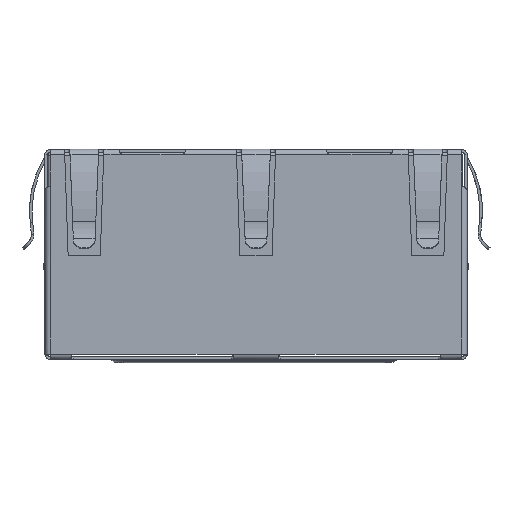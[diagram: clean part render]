
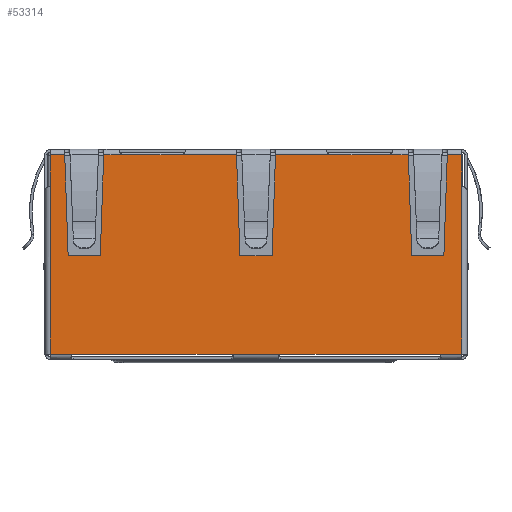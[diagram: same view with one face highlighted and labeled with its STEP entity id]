
A CAD part, front view. The second image highlights one B-rep face of the part: STEP entity #53314.
In plain terms, the highlighted planar face has unit normal (0, -1, 0).
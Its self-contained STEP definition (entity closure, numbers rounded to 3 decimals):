
#43404=CARTESIAN_POINT('',(-14.536,-6.6,
7.5));
#43406=DIRECTION('',(-1.,0.,0.));
#43407=VECTOR('',#43406,1.114);
#43408=CARTESIAN_POINT('',(-14.536,-6.6,
7.5));
#43409=LINE('',#43408,#43407);
#43440=DIRECTION('',(-0.034,0.,-0.999));
#43441=VECTOR('',#43440,7.704);
#43442=CARTESIAN_POINT('',(-11.564,-6.6,
7.5));
#43443=LINE('',#43442,#43441);
#43444=DIRECTION('',(-0.034,0.,0.999));
#43445=VECTOR('',#43444,7.704);
#43446=CARTESIAN_POINT('',(-1.175,-6.6,-0.2));
#43447=LINE('',#43446,#43445);
#43448=DIRECTION('',(-0.034,0.,-0.999));
#43449=VECTOR('',#43448,7.704);
#43450=CARTESIAN_POINT('',(1.536,-6.6,
7.5));
#43451=LINE('',#43450,#43449);
#43452=DIRECTION('',(-0.034,0.,0.999));
#43453=VECTOR('',#43452,7.704);
#43454=CARTESIAN_POINT('',(11.925,-6.6,-0.2));
#43455=LINE('',#43454,#43453);
#43456=DIRECTION('',(-0.034,0.,-0.999));
#43457=VECTOR('',#43456,7.704);
#43458=CARTESIAN_POINT('',(14.636,-6.6,
7.5));
#43459=LINE('',#43458,#43457);
#43460=DIRECTION('',(0.,0.,-1.));
#43461=VECTOR('',#43460,2.4);
#43462=CARTESIAN_POINT('',(-15.65,-6.6,7.5));
#43463=LINE('',#43462,#43461);
#43464=DIRECTION('',(-0.034,0.,0.999));
#43465=VECTOR('',#43464,7.704);
#43466=CARTESIAN_POINT('',(-14.275,-6.6,-0.2));
#43467=LINE('',#43466,#43465);
#43468=DIRECTION('',(1.,0.,0.));
#43469=VECTOR('',#43468,2.45);
#43470=CARTESIAN_POINT('',(-14.275,-6.6,-0.2));
#43471=LINE('',#43470,#43469);
#43581=DIRECTION('',(0.,0.,-1.));
#43582=VECTOR('',#43581,12.8);
#43583=CARTESIAN_POINT('',(-15.65,-6.6,5.1));
#43584=LINE('',#43583,#43582);
#43702=DIRECTION('',(1.,0.,0.));
#43703=VECTOR('',#43702,1.8);
#43704=CARTESIAN_POINT('',(-15.65,-6.6,-7.7));
#43705=LINE('',#43704,#43703);
#43727=DIRECTION('',(-1.,0.,0.));
#43728=VECTOR('',#43727,12.);
#43729=CARTESIAN_POINT('',(-1.85,-6.6,-7.7));
#43730=LINE('',#43729,#43728);
#43784=DIRECTION('',(1.,0.,0.));
#43785=VECTOR('',#43784,3.8);
#43786=CARTESIAN_POINT('',(-1.85,-6.6,-7.7));
#43787=LINE('',#43786,#43785);
#43809=DIRECTION('',(1.,0.,0.));
#43810=VECTOR('',#43809,12.);
#43811=CARTESIAN_POINT('',(1.95,-6.6,-7.7));
#43812=LINE('',#43811,#43810);
#43852=DIRECTION('',(1.,0.,0.));
#43853=VECTOR('',#43852,1.8);
#43854=CARTESIAN_POINT('',(13.95,-6.6,-7.7));
#43855=LINE('',#43854,#43853);
#43913=DIRECTION('',(0.,0.,1.));
#43914=VECTOR('',#43913,12.8);
#43915=CARTESIAN_POINT('',(15.75,-6.6,-7.7));
#43916=LINE('',#43915,#43914);
#43925=DIRECTION('',(0.,0.,1.));
#43926=VECTOR('',#43925,2.4);
#43927=CARTESIAN_POINT('',(15.75,-6.6,5.1));
#43928=LINE('',#43927,#43926);
#43955=DIRECTION('',(-1.,0.,0.));
#43956=VECTOR('',#43955,1.114);
#43957=CARTESIAN_POINT('',(15.75,-6.6,7.5));
#43958=LINE('',#43957,#43956);
#43972=DIRECTION('',(1.,0.,0.));
#43973=VECTOR('',#43972,2.45);
#43974=CARTESIAN_POINT('',(11.925,-6.6,-0.2));
#43975=LINE('',#43974,#43973);
#44005=DIRECTION('',(-1.,0.,
0.));
#44006=VECTOR('',#44005,1.514);
#44007=CARTESIAN_POINT('',(11.664,-6.6,
7.5));
#44008=LINE('',#44007,#44006);
#44747=DIRECTION('',(1.,0.,0.));
#44748=VECTOR('',#44747,4.4);
#44749=CARTESIAN_POINT('',(5.75,-6.6,
7.5));
#44750=LINE('',#44749,#44748);
#44763=DIRECTION('',(-1.,0.,0.));
#44764=VECTOR('',#44763,4.214);
#44765=CARTESIAN_POINT('',(5.75,-6.6,
7.5));
#44766=LINE('',#44765,#44764);
#44780=DIRECTION('',(1.,0.,0.));
#44781=VECTOR('',#44780,2.45);
#44782=CARTESIAN_POINT('',(-1.175,-6.6,-0.2));
#44783=LINE('',#44782,#44781);
#44813=DIRECTION('',(-1.,0.,
0.));
#44814=VECTOR('',#44813,4.214);
#44815=CARTESIAN_POINT('',(-1.436,-6.6,
7.5));
#44816=LINE('',#44815,#44814);
#45527=DIRECTION('',(-1.,0.,0.));
#45528=VECTOR('',#45527,4.4);
#45529=CARTESIAN_POINT('',(-5.65,-6.6,
7.5));
#45530=LINE('',#45529,#45528);
#45543=DIRECTION('',(-1.,0.,0.));
#45544=VECTOR('',#45543,1.514);
#45545=CARTESIAN_POINT('',(-10.05,-6.6,
7.5));
#45546=LINE('',#45545,#45544);
#50363=VERTEX_POINT('',#43404);
#50364=CARTESIAN_POINT('',(-15.65,-6.6,7.5));
#50365=VERTEX_POINT('',#50364);
#50369=CARTESIAN_POINT('',(-15.65,-6.6,5.1));
#50370=VERTEX_POINT('',#50369);
#50373=CARTESIAN_POINT('',(-14.275,-6.6,-0.2));
#50374=CARTESIAN_POINT('',(-11.825,-6.6,-0.2));
#50375=VERTEX_POINT('',#50373);
#50376=VERTEX_POINT('',#50374);
#50377=CARTESIAN_POINT('',(-11.564,-6.6,
7.5));
#50378=VERTEX_POINT('',#50377);
#50379=CARTESIAN_POINT('',(-10.05,-6.6,
7.5));
#50380=VERTEX_POINT('',#50379);
#50381=CARTESIAN_POINT('',(-5.65,-6.6,
7.5));
#50382=VERTEX_POINT('',#50381);
#50383=CARTESIAN_POINT('',(-1.436,-6.6,
7.5));
#50384=VERTEX_POINT('',#50383);
#50385=CARTESIAN_POINT('',(-1.175,-6.6,-0.2));
#50386=VERTEX_POINT('',#50385);
#50387=CARTESIAN_POINT('',(1.275,-6.6,-0.2));
#50388=VERTEX_POINT('',#50387);
#50389=CARTESIAN_POINT('',(1.536,-6.6,
7.5));
#50390=VERTEX_POINT('',#50389);
#50391=CARTESIAN_POINT('',(5.75,-6.6,
7.5));
#50392=VERTEX_POINT('',#50391);
#50393=CARTESIAN_POINT('',(10.15,-6.6,
7.5));
#50394=VERTEX_POINT('',#50393);
#50395=CARTESIAN_POINT('',(11.664,-6.6,
7.5));
#50396=VERTEX_POINT('',#50395);
#50397=CARTESIAN_POINT('',(11.925,-6.6,-0.2));
#50398=VERTEX_POINT('',#50397);
#50399=CARTESIAN_POINT('',(14.375,-6.6,-0.2));
#50400=VERTEX_POINT('',#50399);
#50401=CARTESIAN_POINT('',(14.636,-6.6,
7.5));
#50402=VERTEX_POINT('',#50401);
#50403=CARTESIAN_POINT('',(15.75,-6.6,7.5));
#50404=VERTEX_POINT('',#50403);
#50405=CARTESIAN_POINT('',(15.75,-6.6,5.1));
#50406=VERTEX_POINT('',#50405);
#50407=CARTESIAN_POINT('',(15.75,-6.6,-7.7));
#50408=VERTEX_POINT('',#50407);
#50409=CARTESIAN_POINT('',(13.95,-6.6,-7.7));
#50410=VERTEX_POINT('',#50409);
#50411=CARTESIAN_POINT('',(1.95,-6.6,-7.7));
#50412=VERTEX_POINT('',#50411);
#50413=CARTESIAN_POINT('',(-1.85,-6.6,-7.7));
#50414=VERTEX_POINT('',#50413);
#50415=CARTESIAN_POINT('',(-13.85,-6.6,-7.7));
#50416=VERTEX_POINT('',#50415);
#50417=CARTESIAN_POINT('',(-15.65,-6.6,-7.7));
#50418=VERTEX_POINT('',#50417);
#53257=CARTESIAN_POINT('',(0.05,-6.6,-0.1));
#53258=DIRECTION('',(0.,1.,0.));
#53259=DIRECTION('',(1.,0.,0.));
#53260=AXIS2_PLACEMENT_3D('',#53257,#53258,#53259);
#53261=PLANE('',#53260);
#53263=ORIENTED_EDGE('',*,*,#53262,.T.);
#53265=ORIENTED_EDGE('',*,*,#53264,.F.);
#53267=ORIENTED_EDGE('',*,*,#53266,.F.);
#53269=ORIENTED_EDGE('',*,*,#53268,.F.);
#53271=ORIENTED_EDGE('',*,*,#53270,.F.);
#53273=ORIENTED_EDGE('',*,*,#53272,.F.);
#53275=ORIENTED_EDGE('',*,*,#53274,.T.);
#53277=ORIENTED_EDGE('',*,*,#53276,.F.);
#53279=ORIENTED_EDGE('',*,*,#53278,.F.);
#53281=ORIENTED_EDGE('',*,*,#53280,.T.);
#53283=ORIENTED_EDGE('',*,*,#53282,.F.);
#53285=ORIENTED_EDGE('',*,*,#53284,.F.);
#53287=ORIENTED_EDGE('',*,*,#53286,.T.);
#53289=ORIENTED_EDGE('',*,*,#53288,.F.);
#53291=ORIENTED_EDGE('',*,*,#53290,.F.);
#53293=ORIENTED_EDGE('',*,*,#53292,.F.);
#53295=ORIENTED_EDGE('',*,*,#53294,.F.);
#53297=ORIENTED_EDGE('',*,*,#53296,.F.);
#53299=ORIENTED_EDGE('',*,*,#53298,.F.);
#53301=ORIENTED_EDGE('',*,*,#53300,.F.);
#53303=ORIENTED_EDGE('',*,*,#53302,.T.);
#53305=ORIENTED_EDGE('',*,*,#53304,.F.);
#53307=ORIENTED_EDGE('',*,*,#53306,.F.);
#53308=ORIENTED_EDGE('',*,*,#53247,.F.);
#53309=ORIENTED_EDGE('',*,*,#53157,.F.);
#53311=ORIENTED_EDGE('',*,*,#53310,.F.);
#53312=EDGE_LOOP('',(#53263,#53265,#53267,#53269,#53271,#53273,#53275,#53277,
#53279,#53281,#53283,#53285,#53287,#53289,#53291,#53293,#53295,#53297,#53299,
#53301,#53303,#53305,#53307,#53308,#53309,#53311));
#53313=FACE_OUTER_BOUND('',#53312,.F.);
#53314=ADVANCED_FACE('',(#53313),#53261,.F.);
#53157=EDGE_CURVE('',#50363,#50365,#43409,.T.);
#53247=EDGE_CURVE('',#50365,#50370,#43463,.T.);
#53262=EDGE_CURVE('',#50375,#50376,#43471,.T.);
#53264=EDGE_CURVE('',#50378,#50376,#43443,.T.);
#53266=EDGE_CURVE('',#50380,#50378,#45546,.T.);
#53268=EDGE_CURVE('',#50382,#50380,#45530,.T.);
#53270=EDGE_CURVE('',#50384,#50382,#44816,.T.);
#53272=EDGE_CURVE('',#50386,#50384,#43447,.T.);
#53274=EDGE_CURVE('',#50386,#50388,#44783,.T.);
#53276=EDGE_CURVE('',#50390,#50388,#43451,.T.);
#53278=EDGE_CURVE('',#50392,#50390,#44766,.T.);
#53280=EDGE_CURVE('',#50392,#50394,#44750,.T.);
#53282=EDGE_CURVE('',#50396,#50394,#44008,.T.);
#53284=EDGE_CURVE('',#50398,#50396,#43455,.T.);
#53286=EDGE_CURVE('',#50398,#50400,#43975,.T.);
#53288=EDGE_CURVE('',#50402,#50400,#43459,.T.);
#53290=EDGE_CURVE('',#50404,#50402,#43958,.T.);
#53292=EDGE_CURVE('',#50406,#50404,#43928,.T.);
#53294=EDGE_CURVE('',#50408,#50406,#43916,.T.);
#53296=EDGE_CURVE('',#50410,#50408,#43855,.T.);
#53298=EDGE_CURVE('',#50412,#50410,#43812,.T.);
#53300=EDGE_CURVE('',#50414,#50412,#43787,.T.);
#53302=EDGE_CURVE('',#50414,#50416,#43730,.T.);
#53304=EDGE_CURVE('',#50418,#50416,#43705,.T.);
#53306=EDGE_CURVE('',#50370,#50418,#43584,.T.);
#53310=EDGE_CURVE('',#50375,#50363,#43467,.T.);
